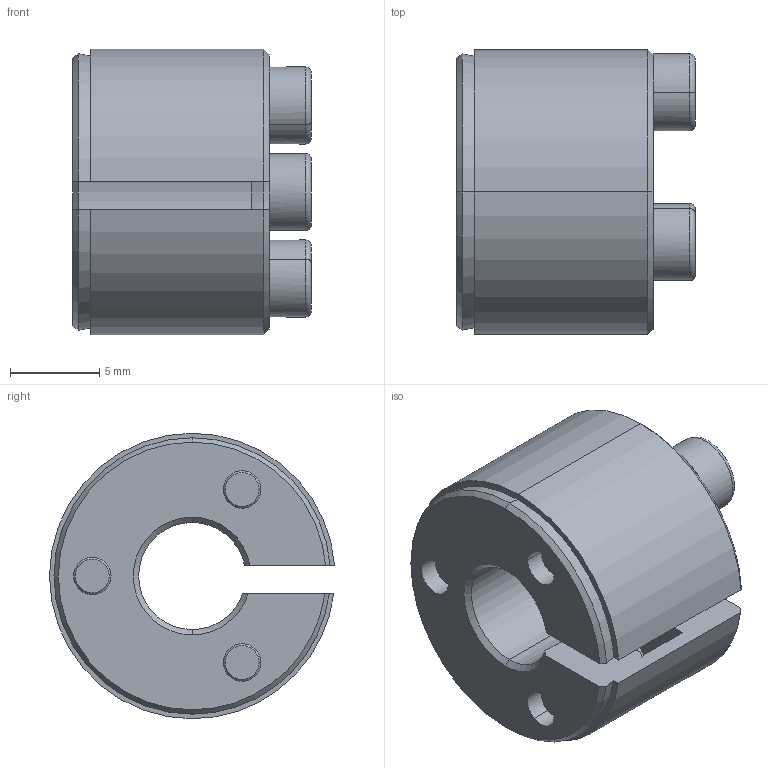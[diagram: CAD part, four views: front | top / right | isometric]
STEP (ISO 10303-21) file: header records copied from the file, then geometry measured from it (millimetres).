
FILE_DESCRIPTION (( 'STEP AP214' ), '1' );
FILE_NAME ('SAPL-E-06X16.STEP', '2024-07-12T01:54:56', ( '决扁浅何厘' ), ( '' ), 'SwSTEP 2.0', 'SolidWorks 2024', '' );
FILE_SCHEMA (( 'AUTOMOTIVE_DESIGN' ));
Length unit declared in the file: millimetre
Products named in the file (1): SAPL-E-06X16
Bounding box: 13.36 x 15.98 x 16 mm (x, y, z)
Volume: 1555.1 mm3; surface area: 1975.1 mm2
Topology: 1 solids, 1 shells, 123 faces, 315 edges, 200 vertices
Faces by surface type: plane 47, cylinder 40, cone 30, torus 6
Entity records: 3905 total; most frequent: CARTESIAN_POINT 771, DIRECTION 702, ORIENTED_EDGE 630, EDGE_CURVE 315, AXIS2_PLACEMENT_3D 285, VERTEX_POINT 200, CIRCLE 161, EDGE_LOOP 141
